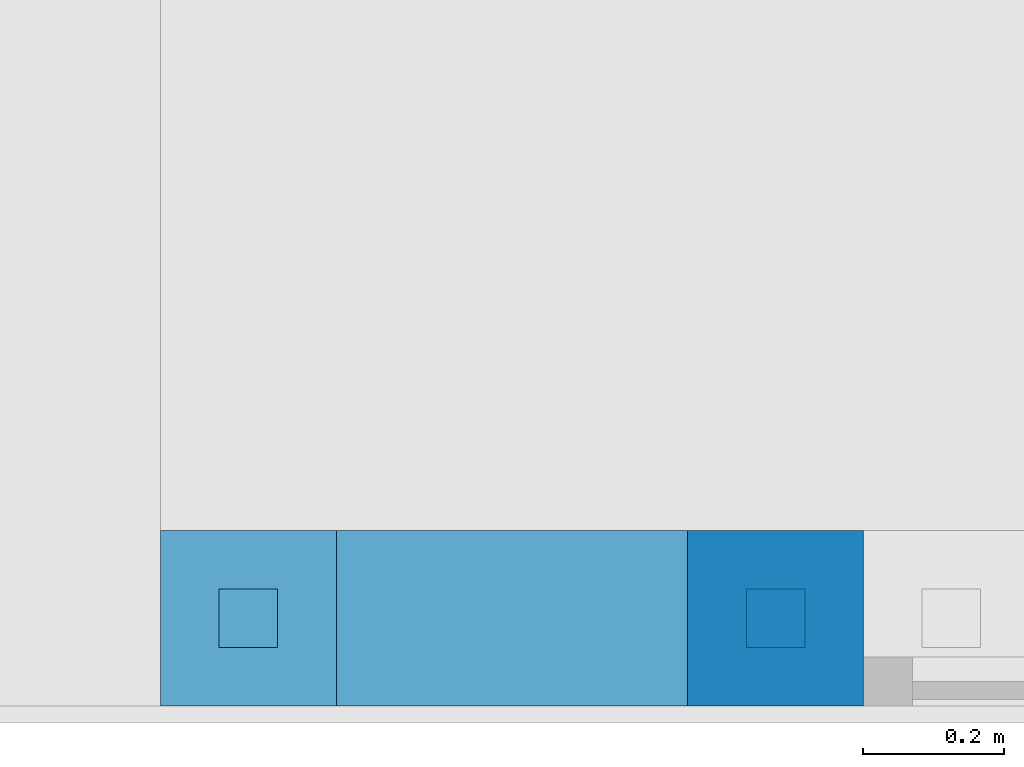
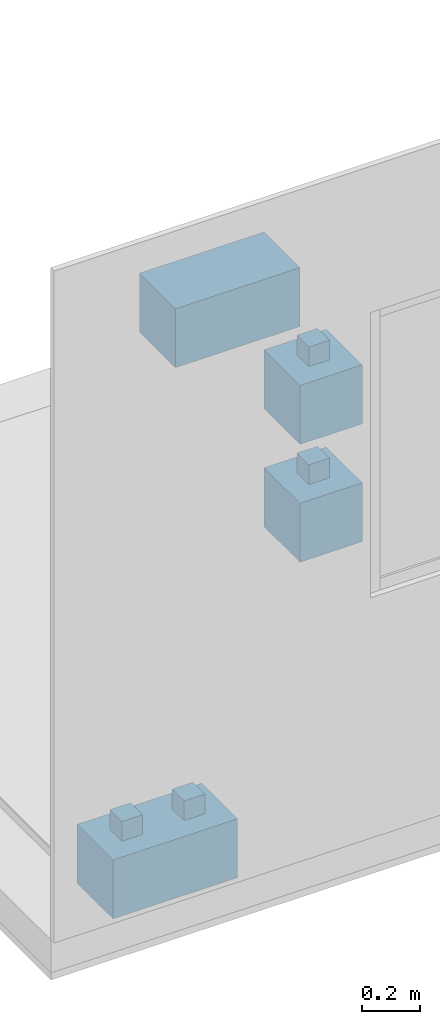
# One storey, part 6 of 9: 4 walls.
"""IFC4 building model written with IfcOpenShell, lengths in centimetres."""

from ifc_helpers import new_model, entity, si_unit, converted_unit, direction, frame, origin, place, context, subcontext, project, spatial, indexed_curve, outline, extrude, material, type_object, element, save


model = new_model("IFC4")

# Units and contexts
model_context = context("Model", 3, precision=0.001, world=origin(), true_north=direction((0.0, 1.0)))
body_context = subcontext(model_context, "Body", "Model", "MODEL_VIEW")
ifc_project = project(units=[si_unit("LENGTHUNIT", "METRE", prefix="CENTI"), si_unit("AREAUNIT", "SQUARE_METRE"), si_unit("VOLUMEUNIT", "CUBIC_METRE"), converted_unit("PLANEANGLEUNIT", "DEGREE", entity("IfcPlaneAngleMeasure", 0.017453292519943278), si_unit("PLANEANGLEUNIT", "RADIAN"), dimensions=[0, 0, 0, 0, 0, 0, 0])], contexts=[model_context])

# Site, building, storey
site_placement = place(None, origin())
site = spatial("IfcSite", under=ifc_project, at=site_placement, Name="Default", CompositionType="ELEMENT")
building_placement = place(site_placement, origin())
building = spatial("IfcBuilding", under=site, at=building_placement, CompositionType="ELEMENT")
storey_placement = place(building_placement, frame((0.0, 0.0, -4.0)))
storey = spatial("IfcBuildingStorey", under=building, at=storey_placement, Name="L00__ABOVE Slab", CompositionType="ELEMENT", Elevation=-4.000000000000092)

# Walls
ifc_material = material(Name="Miscellaneous__Timber Block__Triqbriq, X", Category="Miscellaneous")
wall_type_1 = type_object("IfcWallType", Name="Columns : wll_s__TIMBER BLOCK__Triqbriq, Full Width__wp : WS25", PredefinedType="SOLIDWALL", material=ifc_material)
wall_1_placement = place(storey_placement, frame((2906.8289147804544, 2128.520030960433, 0.0)))
element("IfcWall", 1, at=wall_1_placement, inside=storey, type_object=wall_type_1, material=ifc_material, Name="Columns : wll_s__TIMBER BLOCK__Triqbriq, Full Width__wp : WS25", PredefinedType="SOLIDWALL", context=body_context, shape_type="SweptSolid", body=[
    extrude(outline(indexed_curve([(-4.166666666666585, -4.166666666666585), (4.166666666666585, -4.166666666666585), (4.166666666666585, 4.166666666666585), (-4.166666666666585, 4.166666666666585), (-4.166666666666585, -4.166666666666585)], self_intersect=False)), frame((37.50000000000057, 12.500000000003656, 16.666666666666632), z_axis=(0.0, 0.0, 1.0), x_axis=(0.0, 1.0, 0.0)), (0.0, 0.0, 1.0), 16.666666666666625),
    extrude(outline(indexed_curve([(-4.166666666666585, -4.166666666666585), (4.166666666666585, -4.166666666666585), (4.166666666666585, 4.166666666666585), (-4.166666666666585, 4.166666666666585), (-4.166666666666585, -4.166666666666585)], self_intersect=False)), frame((12.500000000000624, 12.500000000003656, 16.666666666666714), z_axis=(0.0, 0.0, 1.0), x_axis=(0.0, 1.0, 0.0)), (0.0, 0.0, 1.0), 16.666666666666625),
    extrude(outline(indexed_curve([(-4.166666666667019, -4.166666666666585), (4.166666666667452, -4.166666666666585), (4.166666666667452, 4.166666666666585), (-4.166666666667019, 4.166666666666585), (-4.166666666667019, -4.166666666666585)], self_intersect=False)), frame((45.83333333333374, 20.833333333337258, 8.333333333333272), z_axis=(0.0, 0.0, 1.0), x_axis=(0.0, 1.0, 0.0)), (0.0, 0.0, 1.0), 8.333333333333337),
    extrude(outline(indexed_curve([(-4.166666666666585, -4.166666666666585), (4.166666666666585, -4.166666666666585), (4.166666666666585, 4.166666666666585), (-4.166666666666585, 4.166666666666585), (-4.166666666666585, -4.166666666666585)], self_intersect=False)), frame((45.83333333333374, 4.166666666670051, 8.333333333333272), z_axis=(0.0, 0.0, 1.0), x_axis=(0.0, 1.0, 0.0)), (0.0, 0.0, 1.0), 8.333333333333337),
    extrude(outline(indexed_curve([(-4.166666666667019, -4.166666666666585), (4.166666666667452, -4.166666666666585), (4.166666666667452, 4.166666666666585), (-4.166666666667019, 4.166666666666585), (-4.166666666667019, -4.166666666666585)], self_intersect=False)), frame((4.166666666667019, 20.833333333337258, 8.333333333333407), z_axis=(0.0, 0.0, 1.0), x_axis=(0.0, 1.0, 0.0)), (0.0, 0.0, 1.0), 8.333333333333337),
    extrude(outline(indexed_curve([(-4.166666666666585, -4.166666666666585), (4.166666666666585, -4.166666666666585), (4.166666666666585, 4.166666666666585), (-4.166666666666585, 4.166666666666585), (-4.166666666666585, -4.166666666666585)], self_intersect=False)), frame((4.166666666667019, 4.166666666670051, 8.333333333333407), z_axis=(0.0, 0.0, 1.0), x_axis=(0.0, 1.0, 0.0)), (0.0, 0.0, 1.0), 8.333333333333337),
    extrude(outline(indexed_curve([(-4.166666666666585, -8.33333333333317), (4.166666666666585, -8.33333333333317), (4.166666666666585, 8.333333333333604), (-4.166666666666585, 8.333333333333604), (-4.166666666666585, -8.33333333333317)], self_intersect=False)), frame((25.0, 4.166666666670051, 8.33333333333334), z_axis=(0.0, 0.0, 1.0), x_axis=(0.0, 1.0, 0.0)), (0.0, 0.0, 1.0), 8.333333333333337),
    extrude(outline(indexed_curve([(-4.166666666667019, -8.33333333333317), (4.166666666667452, -8.33333333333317), (4.166666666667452, 8.333333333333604), (-4.166666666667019, 8.333333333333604), (-4.166666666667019, -8.33333333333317)], self_intersect=False)), frame((25.0, 20.833333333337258, 8.33333333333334), z_axis=(0.0, 0.0, 1.0), x_axis=(0.0, 1.0, 0.0)), (0.0, 0.0, 1.0), 8.333333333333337),
    extrude(outline(indexed_curve([(-4.166666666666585, -24.999999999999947), (4.166666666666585, -24.999999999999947), (4.166666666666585, 24.999999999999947), (-4.166666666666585, 24.999999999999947), (-4.166666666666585, -24.999999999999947)], self_intersect=False)), frame((25.0, 12.500000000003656, 8.33333333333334), z_axis=(0.0, 0.0, 1.0), x_axis=(0.0, 1.0, 0.0)), (0.0, 0.0, 1.0), 8.333333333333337),
    extrude(outline(indexed_curve([(-12.500000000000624, -4.166666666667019), (12.50000000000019, -4.166666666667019), (12.50000000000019, 4.166666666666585), (-12.500000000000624, 4.166666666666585), (-12.500000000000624, -4.166666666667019)], self_intersect=False)), frame((29.1666666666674, 12.50000000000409, 0.0), z_axis=(0.0, 0.0, 1.0), x_axis=(0.0, 1.0, 0.0)), (0.0, 0.0, 1.0), 8.333333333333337),
    extrude(outline(indexed_curve([(-12.500000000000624, -4.166666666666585), (12.50000000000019, -4.166666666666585), (12.50000000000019, 4.166666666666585), (-12.500000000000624, 4.166666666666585), (-12.500000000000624, -4.166666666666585)], self_intersect=False)), frame((20.833333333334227, 12.50000000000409, 0.0), z_axis=(0.0, 0.0, 1.0), x_axis=(0.0, 1.0, 0.0)), (0.0, 0.0, 1.0), 8.333333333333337),
    extrude(outline(indexed_curve([(-12.500000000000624, -4.166666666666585), (12.50000000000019, -4.166666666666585), (12.50000000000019, 4.166666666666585), (-12.500000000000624, 4.166666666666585), (-12.500000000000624, -4.166666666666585)], self_intersect=False)), frame((45.833333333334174, 12.50000000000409, 0.0), z_axis=(0.0, 0.0, 1.0), x_axis=(0.0, 1.0, 0.0)), (0.0, 0.0, 1.0), 8.333333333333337),
    extrude(outline(indexed_curve([(-12.500000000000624, -4.166666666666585), (12.50000000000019, -4.166666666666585), (12.50000000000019, 4.166666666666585), (-12.500000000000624, 4.166666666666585), (-12.500000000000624, -4.166666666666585)], self_intersect=False)), frame((4.166666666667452, 12.50000000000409, 0.0), z_axis=(0.0, 0.0, 1.0), x_axis=(0.0, 1.0, 0.0)), (0.0, 0.0, 1.0), 8.333333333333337),
    extrude(outline(indexed_curve([(-4.166666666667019, -4.166666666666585), (4.166666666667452, -4.166666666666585), (4.166666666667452, 4.166666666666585), (-4.166666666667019, 4.166666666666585), (-4.166666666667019, -4.166666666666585)], self_intersect=False)), frame((37.500000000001, 20.833333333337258, 0.0), z_axis=(0.0, 0.0, 1.0), x_axis=(0.0, 1.0, 0.0)), (0.0, 0.0, 1.0), 24.99999999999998),
    extrude(outline(indexed_curve([(-4.166666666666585, -4.166666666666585), (4.166666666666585, -4.166666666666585), (4.166666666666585, 4.166666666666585), (-4.166666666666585, 4.166666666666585), (-4.166666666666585, -4.166666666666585)], self_intersect=False)), frame((37.500000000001, 4.166666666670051, 0.0), z_axis=(0.0, 0.0, 1.0), x_axis=(0.0, 1.0, 0.0)), (0.0, 0.0, 1.0), 24.99999999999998),
    extrude(outline(indexed_curve([(-4.166666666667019, -4.166666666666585), (4.166666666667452, -4.166666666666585), (4.166666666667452, 4.166666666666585), (-4.166666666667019, 4.166666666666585), (-4.166666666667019, -4.166666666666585)], self_intersect=False)), frame((12.500000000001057, 20.833333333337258, 0.0), z_axis=(0.0, 0.0, 1.0), x_axis=(0.0, 1.0, 0.0)), (0.0, 0.0, 1.0), 24.99999999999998),
    extrude(outline(indexed_curve([(-4.166666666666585, -4.166666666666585), (4.166666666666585, -4.166666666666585), (4.166666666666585, 4.166666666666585), (-4.166666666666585, 4.166666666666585), (-4.166666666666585, -4.166666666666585)], self_intersect=False)), frame((12.500000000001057, 4.166666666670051, 0.0), z_axis=(0.0, 0.0, 1.0), x_axis=(0.0, 1.0, 0.0)), (0.0, 0.0, 1.0), 24.99999999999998),
    extrude(outline(indexed_curve([(-12.500000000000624, -4.166666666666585), (12.50000000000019, -4.166666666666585), (12.50000000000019, 4.166666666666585), (-12.500000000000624, 4.166666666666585), (-12.500000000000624, -4.166666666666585)], self_intersect=False)), frame((45.83333333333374, 12.50000000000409, 16.666666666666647), z_axis=(0.0, 0.0, 1.0), x_axis=(0.0, 1.0, 0.0)), (0.0, 0.0, 1.0), 8.333333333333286),
    extrude(outline(indexed_curve([(-12.500000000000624, -4.166666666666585), (12.50000000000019, -4.166666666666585), (12.50000000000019, 4.166666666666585), (-12.500000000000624, 4.166666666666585), (-12.500000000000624, -4.166666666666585)], self_intersect=False)), frame((29.1666666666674, 12.50000000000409, 16.6666666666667), z_axis=(0.0, 0.0, 1.0), x_axis=(0.0, 1.0, 0.0)), (0.0, 0.0, 1.0), 8.333333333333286),
    extrude(outline(indexed_curve([(-12.500000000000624, -4.166666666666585), (12.50000000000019, -4.166666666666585), (12.50000000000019, 4.166666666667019), (-12.500000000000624, 4.166666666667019), (-12.500000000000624, -4.166666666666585)], self_intersect=False)), frame((20.833333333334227, 12.50000000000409, 16.66666666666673), z_axis=(0.0, 0.0, 1.0), x_axis=(0.0, 1.0, 0.0)), (0.0, 0.0, 1.0), 8.333333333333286),
    extrude(outline(indexed_curve([(-12.500000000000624, -4.166666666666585), (12.50000000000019, -4.166666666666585), (12.50000000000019, 4.166666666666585), (-12.500000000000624, 4.166666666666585), (-12.500000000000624, -4.166666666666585)], self_intersect=False)), frame((4.166666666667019, 12.50000000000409, 16.66666666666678), z_axis=(0.0, 0.0, 1.0), x_axis=(0.0, 1.0, 0.0)), (0.0, 0.0, 1.0), 8.333333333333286),
])
wall_2_placement = place(storey_placement, frame((2931.828914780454, 2128.5200309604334, 225.0)))
element("IfcWall", 2, at=wall_2_placement, inside=storey, type_object=wall_type_1, material=ifc_material, Name="Columns : wll_s__TIMBER BLOCK__Triqbriq, Full Width__wp : WS25", PredefinedType="SOLIDWALL", context=body_context, shape_type="SweptSolid", body=[
    extrude(outline(indexed_curve([(-4.166666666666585, -4.166666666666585), (4.166666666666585, -4.166666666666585), (4.166666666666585, 4.166666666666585), (-4.166666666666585, 4.166666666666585), (-4.166666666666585, -4.166666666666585)], self_intersect=False)), frame((37.50000000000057, 12.500000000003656, 16.666666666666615), z_axis=(0.0, 0.0, 1.0), x_axis=(0.0, 1.0, 0.0)), (0.0, 0.0, 1.0), 8.333333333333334),
    extrude(outline(indexed_curve([(-4.166666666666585, -4.166666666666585), (4.166666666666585, -4.166666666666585), (4.166666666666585, 4.166666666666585), (-4.166666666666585, 4.166666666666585), (-4.166666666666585, -4.166666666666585)], self_intersect=False)), frame((12.500000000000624, 12.500000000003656, 16.66666666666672), z_axis=(0.0, 0.0, 1.0), x_axis=(0.0, 1.0, 0.0)), (0.0, 0.0, 1.0), 8.33333333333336),
    extrude(outline(indexed_curve([(-4.166666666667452, -4.166666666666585), (4.166666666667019, -4.166666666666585), (4.166666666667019, 4.166666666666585), (-4.166666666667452, 4.166666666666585), (-4.166666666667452, -4.166666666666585)], self_intersect=False)), frame((45.83333333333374, 20.83333333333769, 8.333333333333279), z_axis=(0.0, 0.0, 1.0), x_axis=(0.0, 1.0, 0.0)), (0.0, 0.0, 1.0), 8.333333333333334),
    extrude(outline(indexed_curve([(-4.166666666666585, -4.166666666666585), (4.166666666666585, -4.166666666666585), (4.166666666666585, 4.166666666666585), (-4.166666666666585, 4.166666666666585), (-4.166666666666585, -4.166666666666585)], self_intersect=False)), frame((45.83333333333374, 4.166666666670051, 8.333333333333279), z_axis=(0.0, 0.0, 1.0), x_axis=(0.0, 1.0, 0.0)), (0.0, 0.0, 1.0), 8.333333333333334),
    extrude(outline(indexed_curve([(-4.166666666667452, -4.166666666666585), (4.166666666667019, -4.166666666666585), (4.166666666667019, 4.166666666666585), (-4.166666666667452, 4.166666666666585), (-4.166666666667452, -4.166666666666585)], self_intersect=False)), frame((4.166666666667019, 20.83333333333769, 8.333333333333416), z_axis=(0.0, 0.0, 1.0), x_axis=(0.0, 1.0, 0.0)), (0.0, 0.0, 1.0), 8.333333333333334),
    extrude(outline(indexed_curve([(-4.166666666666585, -4.166666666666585), (4.166666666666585, -4.166666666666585), (4.166666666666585, 4.166666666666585), (-4.166666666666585, 4.166666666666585), (-4.166666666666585, -4.166666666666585)], self_intersect=False)), frame((4.166666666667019, 4.166666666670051, 8.333333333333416), z_axis=(0.0, 0.0, 1.0), x_axis=(0.0, 1.0, 0.0)), (0.0, 0.0, 1.0), 8.333333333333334),
    extrude(outline(indexed_curve([(-4.166666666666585, -8.333333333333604), (4.166666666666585, -8.333333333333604), (4.166666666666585, 8.33333333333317), (-4.166666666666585, 8.33333333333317), (-4.166666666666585, -8.333333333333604)], self_intersect=False)), frame((25.0, 4.166666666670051, 8.333333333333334), z_axis=(0.0, 0.0, 1.0), x_axis=(0.0, 1.0, 0.0)), (0.0, 0.0, 1.0), 8.333333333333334),
    extrude(outline(indexed_curve([(-4.166666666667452, -8.333333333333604), (4.166666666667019, -8.333333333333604), (4.166666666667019, 8.33333333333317), (-4.166666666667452, 8.33333333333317), (-4.166666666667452, -8.333333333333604)], self_intersect=False)), frame((25.0, 20.83333333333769, 8.333333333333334), z_axis=(0.0, 0.0, 1.0), x_axis=(0.0, 1.0, 0.0)), (0.0, 0.0, 1.0), 8.333333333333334),
    extrude(outline(indexed_curve([(-4.166666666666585, -24.999999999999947), (4.166666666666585, -24.999999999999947), (4.166666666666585, 24.999999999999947), (-4.166666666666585, 24.999999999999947), (-4.166666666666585, -24.999999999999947)], self_intersect=False)), frame((25.0, 12.500000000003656, 8.333333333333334), z_axis=(0.0, 0.0, 1.0), x_axis=(0.0, 1.0, 0.0)), (0.0, 0.0, 1.0), 8.333333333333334),
    extrude(outline(indexed_curve([(-12.50000000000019, -4.166666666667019), (12.500000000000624, -4.166666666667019), (12.500000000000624, 4.166666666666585), (-12.50000000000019, 4.166666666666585), (-12.50000000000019, -4.166666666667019)], self_intersect=False)), frame((29.1666666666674, 12.500000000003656, 0.0), z_axis=(0.0, 0.0, 1.0), x_axis=(0.0, 1.0, 0.0)), (0.0, 0.0, 1.0), 8.333333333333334),
    extrude(outline(indexed_curve([(-12.50000000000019, -4.166666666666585), (12.500000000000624, -4.166666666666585), (12.500000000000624, 4.166666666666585), (-12.50000000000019, 4.166666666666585), (-12.50000000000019, -4.166666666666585)], self_intersect=False)), frame((20.833333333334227, 12.500000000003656, 0.0), z_axis=(0.0, 0.0, 1.0), x_axis=(0.0, 1.0, 0.0)), (0.0, 0.0, 1.0), 8.333333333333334),
    extrude(outline(indexed_curve([(-12.50000000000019, -4.166666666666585), (12.500000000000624, -4.166666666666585), (12.500000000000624, 4.166666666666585), (-12.50000000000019, 4.166666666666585), (-12.50000000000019, -4.166666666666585)], self_intersect=False)), frame((45.833333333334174, 12.500000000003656, 0.0), z_axis=(0.0, 0.0, 1.0), x_axis=(0.0, 1.0, 0.0)), (0.0, 0.0, 1.0), 8.333333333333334),
    extrude(outline(indexed_curve([(-12.50000000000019, -4.166666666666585), (12.500000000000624, -4.166666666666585), (12.500000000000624, 4.166666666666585), (-12.50000000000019, 4.166666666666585), (-12.50000000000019, -4.166666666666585)], self_intersect=False)), frame((4.166666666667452, 12.500000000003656, 0.0), z_axis=(0.0, 0.0, 1.0), x_axis=(0.0, 1.0, 0.0)), (0.0, 0.0, 1.0), 8.333333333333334),
    extrude(outline(indexed_curve([(-4.166666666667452, -4.166666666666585), (4.166666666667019, -4.166666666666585), (4.166666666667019, 4.166666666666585), (-4.166666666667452, 4.166666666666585), (-4.166666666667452, -4.166666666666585)], self_intersect=False)), frame((37.500000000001, 20.83333333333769, 0.0), z_axis=(0.0, 0.0, 1.0), x_axis=(0.0, 1.0, 0.0)), (0.0, 0.0, 1.0), 25.0),
    extrude(outline(indexed_curve([(-4.166666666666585, -4.166666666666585), (4.166666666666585, -4.166666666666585), (4.166666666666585, 4.166666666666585), (-4.166666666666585, 4.166666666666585), (-4.166666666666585, -4.166666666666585)], self_intersect=False)), frame((37.500000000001, 4.166666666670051, 0.0), z_axis=(0.0, 0.0, 1.0), x_axis=(0.0, 1.0, 0.0)), (0.0, 0.0, 1.0), 25.0),
    extrude(outline(indexed_curve([(-4.166666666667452, -4.166666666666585), (4.166666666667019, -4.166666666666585), (4.166666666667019, 4.166666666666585), (-4.166666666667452, 4.166666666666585), (-4.166666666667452, -4.166666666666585)], self_intersect=False)), frame((12.500000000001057, 20.83333333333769, 0.0), z_axis=(0.0, 0.0, 1.0), x_axis=(0.0, 1.0, 0.0)), (0.0, 0.0, 1.0), 25.0),
    extrude(outline(indexed_curve([(-4.166666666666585, -4.166666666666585), (4.166666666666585, -4.166666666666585), (4.166666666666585, 4.166666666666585), (-4.166666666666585, 4.166666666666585), (-4.166666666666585, -4.166666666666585)], self_intersect=False)), frame((12.500000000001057, 4.166666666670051, 0.0), z_axis=(0.0, 0.0, 1.0), x_axis=(0.0, 1.0, 0.0)), (0.0, 0.0, 1.0), 25.0),
    extrude(outline(indexed_curve([(-12.50000000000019, -4.166666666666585), (12.500000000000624, -4.166666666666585), (12.500000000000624, 4.166666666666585), (-12.50000000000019, 4.166666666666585), (-12.50000000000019, -4.166666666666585)], self_intersect=False)), frame((45.83333333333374, 12.500000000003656, 16.666666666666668), z_axis=(0.0, 0.0, 1.0), x_axis=(0.0, 1.0, 0.0)), (0.0, 0.0, 1.0), 8.333333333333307),
    extrude(outline(indexed_curve([(-12.50000000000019, -4.166666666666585), (12.500000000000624, -4.166666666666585), (12.500000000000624, 4.166666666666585), (-12.50000000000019, 4.166666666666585), (-12.50000000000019, -4.166666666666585)], self_intersect=False)), frame((29.1666666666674, 12.500000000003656, 16.66666666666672), z_axis=(0.0, 0.0, 1.0), x_axis=(0.0, 1.0, 0.0)), (0.0, 0.0, 1.0), 8.333333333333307),
    extrude(outline(indexed_curve([(-12.50000000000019, -4.166666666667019), (12.500000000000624, -4.166666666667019), (12.500000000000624, 4.166666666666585), (-12.50000000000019, 4.166666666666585), (-12.50000000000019, -4.166666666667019)], self_intersect=False)), frame((20.833333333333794, 12.500000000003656, 16.66666666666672), z_axis=(0.0, 0.0, 1.0), x_axis=(0.0, 1.0, 0.0)), (0.0, 0.0, 1.0), 8.333333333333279),
    extrude(outline(indexed_curve([(-12.50000000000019, -4.166666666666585), (12.500000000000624, -4.166666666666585), (12.500000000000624, 4.166666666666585), (-12.50000000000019, 4.166666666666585), (-12.50000000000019, -4.166666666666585)], self_intersect=False)), frame((4.166666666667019, 12.500000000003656, 16.666666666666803), z_axis=(0.0, 0.0, 1.0), x_axis=(0.0, 1.0, 0.0)), (0.0, 0.0, 1.0), 8.333333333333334),
])
wall_type_2 = type_object("IfcWallType", Name="Columns : wll_s__TIMBER BLOCK__Triqbriq, Half Width__wp : WS25", PredefinedType="SOLIDWALL", material=ifc_material)
wall_3_placement = place(storey_placement, frame((2981.8289147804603, 2128.5200309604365, 175.0), z_axis=(0.0, 0.0, 1.0), x_axis=(0.0, 1.0, 0.0)))
element("IfcWall", 3, at=wall_3_placement, inside=storey, type_object=wall_type_2, material=ifc_material, Name="Columns : wll_s__TIMBER BLOCK__Triqbriq, Half Width__wp : WS25", PredefinedType="SOLIDWALL", context=body_context, shape_type="SweptSolid", body=[
    extrude(outline(indexed_curve([(-4.166666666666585, -4.166666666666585), (4.166666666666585, -4.166666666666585), (4.166666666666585, 4.166666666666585), (-4.166666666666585, 4.166666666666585), (-4.166666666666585, -4.166666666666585)], self_intersect=False)), frame((12.50000000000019, -12.50000000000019, 16.66666666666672), z_axis=(0.0, 0.0, 1.0), x_axis=(0.0, -1.0, 0.0)), (0.0, 0.0, 1.0), 16.66666666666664),
    extrude(outline(indexed_curve([(-4.166666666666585, -4.166666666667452), (4.166666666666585, -4.166666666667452), (4.166666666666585, 4.166666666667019), (-4.166666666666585, 4.166666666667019), (-4.166666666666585, -4.166666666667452)], self_intersect=False)), frame((20.833333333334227, -20.833333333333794, 8.333333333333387), z_axis=(0.0, 0.0, 1.0), x_axis=(0.0, -1.0, 0.0)), (0.0, 0.0, 1.0), 8.333333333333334),
    extrude(outline(indexed_curve([(-4.166666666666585, -4.166666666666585), (4.166666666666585, -4.166666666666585), (4.166666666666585, 4.166666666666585), (-4.166666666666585, 4.166666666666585), (-4.166666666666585, -4.166666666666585)], self_intersect=False)), frame((4.166666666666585, -20.833333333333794, 8.333333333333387), z_axis=(0.0, 0.0, 1.0), x_axis=(0.0, -1.0, 0.0)), (0.0, 0.0, 1.0), 8.333333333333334),
    extrude(outline(indexed_curve([(-4.166666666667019, -4.166666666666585), (4.166666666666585, -4.166666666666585), (4.166666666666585, 4.166666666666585), (-4.166666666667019, 4.166666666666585), (-4.166666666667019, -4.166666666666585)], self_intersect=False)), frame((4.166666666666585, -4.166666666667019, 8.333333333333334), z_axis=(0.0, 0.0, 1.0), x_axis=(0.0, -1.0, 0.0)), (0.0, 0.0, 1.0), 8.333333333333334),
    extrude(outline(indexed_curve([(-4.166666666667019, -4.166666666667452), (4.166666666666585, -4.166666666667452), (4.166666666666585, 4.166666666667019), (-4.166666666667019, 4.166666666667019), (-4.166666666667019, -4.166666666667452)], self_intersect=False)), frame((20.833333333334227, -4.166666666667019, 8.333333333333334), z_axis=(0.0, 0.0, 1.0), x_axis=(0.0, -1.0, 0.0)), (0.0, 0.0, 1.0), 8.333333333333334),
    extrude(outline(indexed_curve([(-12.50000000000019, -4.166666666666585), (12.50000000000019, -4.166666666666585), (12.50000000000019, 4.166666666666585), (-12.50000000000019, 4.166666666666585), (-12.50000000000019, -4.166666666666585)], self_intersect=False)), frame((12.50000000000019, -12.50000000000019, 8.333333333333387), z_axis=(0.0, 0.0, 1.0), x_axis=(0.0, -1.0, 0.0)), (0.0, 0.0, 1.0), 8.333333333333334),
    extrude(outline(indexed_curve([(-4.166666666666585, -12.50000000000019), (4.166666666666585, -12.50000000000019), (4.166666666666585, 12.500000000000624), (-4.166666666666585, 12.500000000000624), (-4.166666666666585, -12.50000000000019)], self_intersect=False)), frame((12.50000000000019, -4.166666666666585, 0.0), z_axis=(0.0, 0.0, 1.0), x_axis=(0.0, -1.0, 0.0)), (0.0, 0.0, 1.0), 8.333333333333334),
    extrude(outline(indexed_curve([(-4.166666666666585, -12.50000000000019), (4.166666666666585, -12.50000000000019), (4.166666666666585, 12.500000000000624), (-4.166666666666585, 12.500000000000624), (-4.166666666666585, -12.50000000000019)], self_intersect=False)), frame((12.50000000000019, -20.83333333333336, 0.0), z_axis=(0.0, 0.0, 1.0), x_axis=(0.0, -1.0, 0.0)), (0.0, 0.0, 1.0), 8.333333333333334),
    extrude(outline(indexed_curve([(-4.166666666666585, -4.166666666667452), (4.166666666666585, -4.166666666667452), (4.166666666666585, 4.166666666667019), (-4.166666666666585, 4.166666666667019), (-4.166666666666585, -4.166666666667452)], self_intersect=False)), frame((20.833333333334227, -12.499999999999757, 0.0), z_axis=(0.0, 0.0, 1.0), x_axis=(0.0, -1.0, 0.0)), (0.0, 0.0, 1.0), 24.999999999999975),
    extrude(outline(indexed_curve([(-4.166666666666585, -4.166666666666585), (4.166666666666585, -4.166666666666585), (4.166666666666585, 4.166666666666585), (-4.166666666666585, 4.166666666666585), (-4.166666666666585, -4.166666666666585)], self_intersect=False)), frame((4.166666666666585, -12.499999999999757, 0.0), z_axis=(0.0, 0.0, 1.0), x_axis=(0.0, -1.0, 0.0)), (0.0, 0.0, 1.0), 24.999999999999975),
    extrude(outline(indexed_curve([(-4.166666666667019, -12.50000000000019), (4.166666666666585, -12.50000000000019), (4.166666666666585, 12.500000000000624), (-4.166666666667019, 12.500000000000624), (-4.166666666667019, -12.50000000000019)], self_intersect=False)), frame((12.50000000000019, -4.166666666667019, 16.66666666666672), z_axis=(0.0, 0.0, 1.0), x_axis=(0.0, -1.0, 0.0)), (0.0, 0.0, 1.0), 8.333333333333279),
    extrude(outline(indexed_curve([(-4.166666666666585, -12.50000000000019), (4.166666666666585, -12.50000000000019), (4.166666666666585, 12.500000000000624), (-4.166666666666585, 12.500000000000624), (-4.166666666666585, -12.50000000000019)], self_intersect=False)), frame((12.50000000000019, -20.833333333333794, 16.666666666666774), z_axis=(0.0, 0.0, 1.0), x_axis=(0.0, -1.0, 0.0)), (0.0, 0.0, 1.0), 8.333333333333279),
])
wall_4_placement = place(storey_placement, frame((2981.8289147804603, 2128.5200309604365, 125.0), z_axis=(0.0, 0.0, 1.0), x_axis=(0.0, 1.0, 0.0)))
element("IfcWall", 4, at=wall_4_placement, inside=storey, type_object=wall_type_2, material=ifc_material, Name="Columns : wll_s__TIMBER BLOCK__Triqbriq, Half Width__wp : WS25", PredefinedType="SOLIDWALL", context=body_context, shape_type="SweptSolid", body=[
    extrude(outline(indexed_curve([(-4.166666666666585, -4.166666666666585), (4.166666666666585, -4.166666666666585), (4.166666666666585, 4.166666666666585), (-4.166666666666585, 4.166666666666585), (-4.166666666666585, -4.166666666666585)], self_intersect=False)), frame((12.50000000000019, -12.50000000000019, 16.66666666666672), z_axis=(0.0, 0.0, 1.0), x_axis=(0.0, -1.0, 0.0)), (0.0, 0.0, 1.0), 16.66666666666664),
    extrude(outline(indexed_curve([(-4.166666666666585, -4.166666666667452), (4.166666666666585, -4.166666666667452), (4.166666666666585, 4.166666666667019), (-4.166666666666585, 4.166666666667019), (-4.166666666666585, -4.166666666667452)], self_intersect=False)), frame((20.833333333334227, -20.833333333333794, 8.333333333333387), z_axis=(0.0, 0.0, 1.0), x_axis=(0.0, -1.0, 0.0)), (0.0, 0.0, 1.0), 8.333333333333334),
    extrude(outline(indexed_curve([(-4.166666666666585, -4.166666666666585), (4.166666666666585, -4.166666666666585), (4.166666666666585, 4.166666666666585), (-4.166666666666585, 4.166666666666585), (-4.166666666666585, -4.166666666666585)], self_intersect=False)), frame((4.166666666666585, -20.833333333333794, 8.333333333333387), z_axis=(0.0, 0.0, 1.0), x_axis=(0.0, -1.0, 0.0)), (0.0, 0.0, 1.0), 8.333333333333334),
    extrude(outline(indexed_curve([(-4.166666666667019, -4.166666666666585), (4.166666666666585, -4.166666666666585), (4.166666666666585, 4.166666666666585), (-4.166666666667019, 4.166666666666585), (-4.166666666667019, -4.166666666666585)], self_intersect=False)), frame((4.166666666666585, -4.166666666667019, 8.333333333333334), z_axis=(0.0, 0.0, 1.0), x_axis=(0.0, -1.0, 0.0)), (0.0, 0.0, 1.0), 8.333333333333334),
    extrude(outline(indexed_curve([(-4.166666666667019, -4.166666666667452), (4.166666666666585, -4.166666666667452), (4.166666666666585, 4.166666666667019), (-4.166666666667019, 4.166666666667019), (-4.166666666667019, -4.166666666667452)], self_intersect=False)), frame((20.833333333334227, -4.166666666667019, 8.333333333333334), z_axis=(0.0, 0.0, 1.0), x_axis=(0.0, -1.0, 0.0)), (0.0, 0.0, 1.0), 8.333333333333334),
    extrude(outline(indexed_curve([(-12.50000000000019, -4.166666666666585), (12.50000000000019, -4.166666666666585), (12.50000000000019, 4.166666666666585), (-12.50000000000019, 4.166666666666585), (-12.50000000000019, -4.166666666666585)], self_intersect=False)), frame((12.50000000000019, -12.50000000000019, 8.333333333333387), z_axis=(0.0, 0.0, 1.0), x_axis=(0.0, -1.0, 0.0)), (0.0, 0.0, 1.0), 8.333333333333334),
    extrude(outline(indexed_curve([(-4.166666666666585, -12.50000000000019), (4.166666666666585, -12.50000000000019), (4.166666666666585, 12.500000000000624), (-4.166666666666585, 12.500000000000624), (-4.166666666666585, -12.50000000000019)], self_intersect=False)), frame((12.50000000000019, -4.166666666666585, 0.0), z_axis=(0.0, 0.0, 1.0), x_axis=(0.0, -1.0, 0.0)), (0.0, 0.0, 1.0), 8.333333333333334),
    extrude(outline(indexed_curve([(-4.166666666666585, -12.50000000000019), (4.166666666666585, -12.50000000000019), (4.166666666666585, 12.500000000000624), (-4.166666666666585, 12.500000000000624), (-4.166666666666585, -12.50000000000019)], self_intersect=False)), frame((12.50000000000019, -20.83333333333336, 0.0), z_axis=(0.0, 0.0, 1.0), x_axis=(0.0, -1.0, 0.0)), (0.0, 0.0, 1.0), 8.333333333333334),
    extrude(outline(indexed_curve([(-4.166666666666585, -4.166666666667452), (4.166666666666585, -4.166666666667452), (4.166666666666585, 4.166666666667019), (-4.166666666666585, 4.166666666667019), (-4.166666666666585, -4.166666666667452)], self_intersect=False)), frame((20.833333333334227, -12.499999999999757, 0.0), z_axis=(0.0, 0.0, 1.0), x_axis=(0.0, -1.0, 0.0)), (0.0, 0.0, 1.0), 24.999999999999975),
    extrude(outline(indexed_curve([(-4.166666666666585, -4.166666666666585), (4.166666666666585, -4.166666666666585), (4.166666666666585, 4.166666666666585), (-4.166666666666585, 4.166666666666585), (-4.166666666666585, -4.166666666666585)], self_intersect=False)), frame((4.166666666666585, -12.499999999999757, 0.0), z_axis=(0.0, 0.0, 1.0), x_axis=(0.0, -1.0, 0.0)), (0.0, 0.0, 1.0), 24.999999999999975),
    extrude(outline(indexed_curve([(-4.166666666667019, -12.50000000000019), (4.166666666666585, -12.50000000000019), (4.166666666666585, 12.500000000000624), (-4.166666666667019, 12.500000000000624), (-4.166666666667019, -12.50000000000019)], self_intersect=False)), frame((12.50000000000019, -4.166666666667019, 16.66666666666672), z_axis=(0.0, 0.0, 1.0), x_axis=(0.0, -1.0, 0.0)), (0.0, 0.0, 1.0), 8.333333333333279),
    extrude(outline(indexed_curve([(-4.166666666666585, -12.50000000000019), (4.166666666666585, -12.50000000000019), (4.166666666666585, 12.500000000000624), (-4.166666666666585, 12.500000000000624), (-4.166666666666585, -12.50000000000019)], self_intersect=False)), frame((12.50000000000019, -20.833333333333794, 16.666666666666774), z_axis=(0.0, 0.0, 1.0), x_axis=(0.0, -1.0, 0.0)), (0.0, 0.0, 1.0), 8.333333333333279),
])

save(model, "model.ifc")
